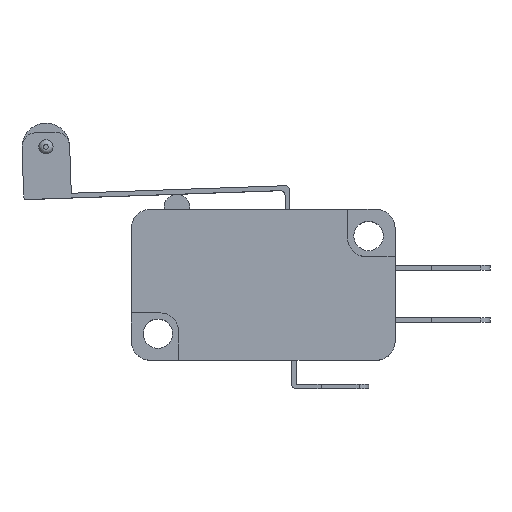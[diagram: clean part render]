
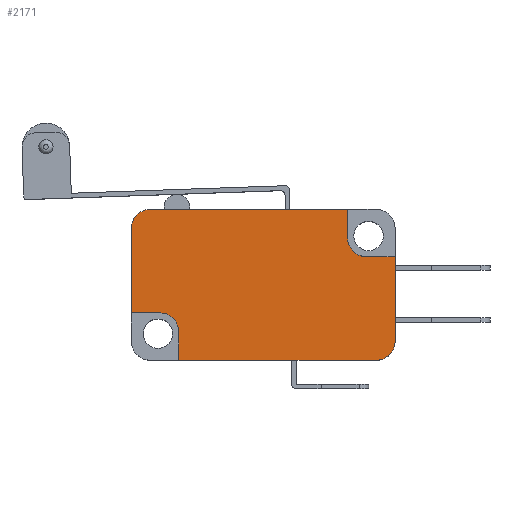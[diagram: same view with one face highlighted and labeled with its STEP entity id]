
A CAD part, top view. The second image highlights one B-rep face of the part: STEP entity #2171.
In plain terms, the highlighted planar face has unit normal (0, 0, 1).
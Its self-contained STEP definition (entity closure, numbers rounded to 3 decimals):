
#85=CIRCLE('',#2306,2.);
#89=CIRCLE('',#2313,2.);
#92=CIRCLE('',#2321,2.);
#94=CIRCLE('',#2327,2.);
#313=FACE_OUTER_BOUND('',#449,.T.);
#449=EDGE_LOOP('',(#1849,#1850,#1851,#1852,#1853,#1854,#1855,#1856,#1857,
#1858,#1859,#1860));
#523=LINE('',#3045,#744);
#531=LINE('',#3062,#752);
#648=LINE('',#3369,#869);
#655=LINE('',#3389,#876);
#658=LINE('',#3395,#879);
#665=LINE('',#3412,#886);
#667=LINE('',#3420,#888);
#668=LINE('',#3422,#889);
#744=VECTOR('',#2450,20.8);
#752=VECTOR('',#2460,20.8);
#869=VECTOR('',#2749,3.);
#876=VECTOR('',#2768,3.);
#879=VECTOR('',#2775,8.9);
#886=VECTOR('',#2796,8.9);
#888=VECTOR('',#2810,3.);
#889=VECTOR('',#2813,3.);
#959=VERTEX_POINT('',#3042);
#960=VERTEX_POINT('',#3044);
#966=VERTEX_POINT('',#3058);
#968=VERTEX_POINT('',#3061);
#1067=VERTEX_POINT('',#3353);
#1068=VERTEX_POINT('',#3355);
#1072=VERTEX_POINT('',#3368);
#1075=VERTEX_POINT('',#3375);
#1076=VERTEX_POINT('',#3377);
#1079=VERTEX_POINT('',#3388);
#1080=VERTEX_POINT('',#3394);
#1083=VERTEX_POINT('',#3411);
#1167=EDGE_CURVE('',#960,#959,#523,.T.);
#1175=EDGE_CURVE('',#968,#966,#531,.T.);
#1318=EDGE_CURVE('',#1067,#1068,#85,.F.);
#1325=EDGE_CURVE('',#1072,#1068,#648,.T.);
#1329=EDGE_CURVE('',#1075,#1076,#89,.F.);
#1335=EDGE_CURVE('',#1079,#1076,#655,.T.);
#1338=EDGE_CURVE('',#1080,#1079,#658,.T.);
#1342=EDGE_CURVE('',#1080,#966,#92,.T.);
#1348=EDGE_CURVE('',#1083,#1072,#665,.T.);
#1350=EDGE_CURVE('',#1083,#959,#94,.T.);
#1351=EDGE_CURVE('',#1067,#968,#667,.T.);
#1352=EDGE_CURVE('',#1075,#960,#668,.T.);
#1849=ORIENTED_EDGE('',*,*,#1342,.F.);
#1850=ORIENTED_EDGE('',*,*,#1338,.T.);
#1851=ORIENTED_EDGE('',*,*,#1335,.T.);
#1852=ORIENTED_EDGE('',*,*,#1329,.F.);
#1853=ORIENTED_EDGE('',*,*,#1352,.T.);
#1854=ORIENTED_EDGE('',*,*,#1167,.T.);
#1855=ORIENTED_EDGE('',*,*,#1350,.F.);
#1856=ORIENTED_EDGE('',*,*,#1348,.T.);
#1857=ORIENTED_EDGE('',*,*,#1325,.T.);
#1858=ORIENTED_EDGE('',*,*,#1318,.F.);
#1859=ORIENTED_EDGE('',*,*,#1351,.T.);
#1860=ORIENTED_EDGE('',*,*,#1175,.T.);
#2069=PLANE('',#2333);
#2171=ADVANCED_FACE('',(#313),#2069,.T.);
#2306=AXIS2_PLACEMENT_3D('',#3356,#2735,#2736);
#2313=AXIS2_PLACEMENT_3D('',#3378,#2756,#2757);
#2321=AXIS2_PLACEMENT_3D('',#3401,#2782,#2783);
#2327=AXIS2_PLACEMENT_3D('',#3415,#2800,#2801);
#2333=AXIS2_PLACEMENT_3D('',#3423,#2814,#2815);
#2450=DIRECTION('',(-1.,0.,0.));
#2460=DIRECTION('',(1.,0.,0.));
#2735=DIRECTION('center_axis',(0.,0.,-1.));
#2736=DIRECTION('ref_axis',(0.707,0.707,0.));
#2749=DIRECTION('',(1.,0.,0.));
#2756=DIRECTION('center_axis',(0.,0.,-1.));
#2757=DIRECTION('ref_axis',(-0.707,-0.707,0.));
#2768=DIRECTION('',(-1.,0.,0.));
#2775=DIRECTION('',(0.,1.,0.));
#2782=DIRECTION('center_axis',(0.,0.,-1.));
#2783=DIRECTION('ref_axis',(0.707,-0.707,0.));
#2796=DIRECTION('',(0.,-1.,0.));
#2800=DIRECTION('center_axis',(0.,0.,-1.));
#2801=DIRECTION('ref_axis',(-0.707,0.707,0.));
#2810=DIRECTION('',(0.,-1.,0.));
#2813=DIRECTION('',(0.,1.,0.));
#2814=DIRECTION('center_axis',(0.,0.,1.));
#2815=DIRECTION('ref_axis',(1.,0.,0.));
#3042=CARTESIAN_POINT('',(-11.9,7.95,5.));
#3044=CARTESIAN_POINT('',(8.9,7.95,5.));
#3045=CARTESIAN_POINT('',(-13.9,7.95,5.));
#3058=CARTESIAN_POINT('',(11.9,-7.95,5.));
#3061=CARTESIAN_POINT('',(-8.9,-7.95,5.));
#3062=CARTESIAN_POINT('',(13.9,-7.95,5.));
#3353=CARTESIAN_POINT('',(-8.9,-4.95,5.));
#3355=CARTESIAN_POINT('',(-10.9,-2.95,5.));
#3356=CARTESIAN_POINT('Origin',(-10.9,-4.95,5.));
#3368=CARTESIAN_POINT('',(-13.9,-2.95,5.));
#3369=CARTESIAN_POINT('',(-4.45,-2.95,5.));
#3375=CARTESIAN_POINT('',(8.9,4.95,5.));
#3377=CARTESIAN_POINT('',(10.9,2.95,5.));
#3378=CARTESIAN_POINT('Origin',(10.9,4.95,5.));
#3388=CARTESIAN_POINT('',(13.9,2.95,5.));
#3389=CARTESIAN_POINT('',(4.45,2.95,5.));
#3394=CARTESIAN_POINT('',(13.9,-5.95,5.));
#3395=CARTESIAN_POINT('',(13.9,7.95,5.));
#3401=CARTESIAN_POINT('Origin',(11.9,-5.95,5.));
#3411=CARTESIAN_POINT('',(-13.9,5.95,5.));
#3412=CARTESIAN_POINT('',(-13.9,-7.95,5.));
#3415=CARTESIAN_POINT('Origin',(-11.9,5.95,5.));
#3420=CARTESIAN_POINT('',(-8.9,-3.975,5.));
#3422=CARTESIAN_POINT('',(8.9,3.975,5.));
#3423=CARTESIAN_POINT('Origin',(0.,0.,5.));
